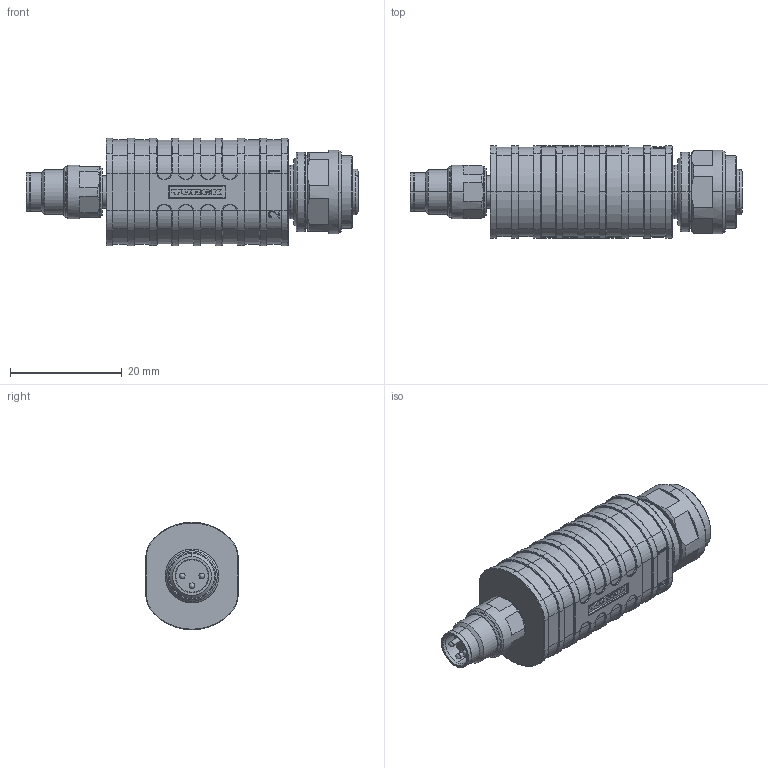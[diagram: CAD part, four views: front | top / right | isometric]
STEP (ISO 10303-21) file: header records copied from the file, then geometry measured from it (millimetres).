
FILE_DESCRIPTION (( 'STEP AP203' ), '1' );
FILE_NAME ('6634968 AD-MFS3-FKM4_Customer.STEP', '2023-03-22T13:54:04', ( '' ), ( '' ), 'SwSTEP 2.0', 'SolidWorks 2019', '' );
FILE_SCHEMA (( 'CONFIG_CONTROL_DESIGN' ));
Length unit declared in the file: millimetre
Products named in the file (1): 6634968 AD-MFS3-FKM4_Customer
Bounding box: 59.3 x 16.5 x 19.2 mm (x, y, z)
Volume: 10487.3 mm3; surface area: 5244.7 mm2
Topology: 1 solids, 16 shells, 911 faces, 2221 edges, 1379 vertices
Faces by surface type: cylinder 330, plane 244, torus 150, bspline 123, cone 64
Entity records: 34025 total; most frequent: CARTESIAN_POINT 12670, DIRECTION 4616, ORIENTED_EDGE 4430, EDGE_CURVE 2215, AXIS2_PLACEMENT_3D 1928, VERTEX_POINT 1379, CIRCLE 1139, EDGE_LOOP 980
